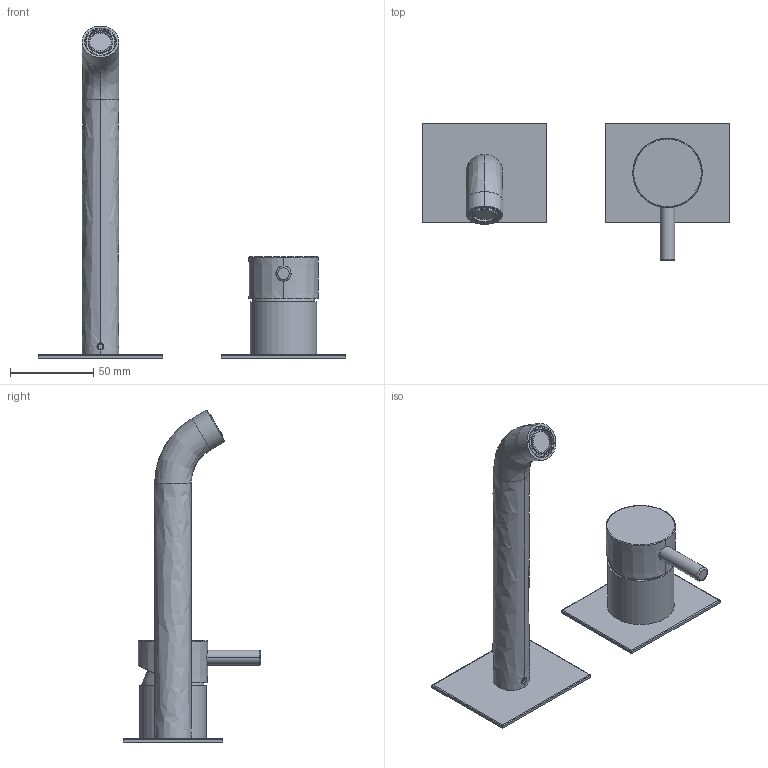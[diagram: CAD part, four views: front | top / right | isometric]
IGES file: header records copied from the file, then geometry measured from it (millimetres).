
Start section:  PTC IGES file: 12549.igs
Global section: file name: 12549.igs; native system: Creo Parametric by PTC Inc.; preprocessor: 2022014; author: carloff; organization: Unknown; date: 20240319.153608; units: millimetre
Bounding box: 185 x 82.9 x 199.53 mm (x, y, z)
Surface area: 91592.8 mm2 (no closed solid volume)
Topology: 0 solids, 0 shells, 855 faces, 4898 edges, 4894 vertices
Faces by surface type: revolution 487, bspline 368
